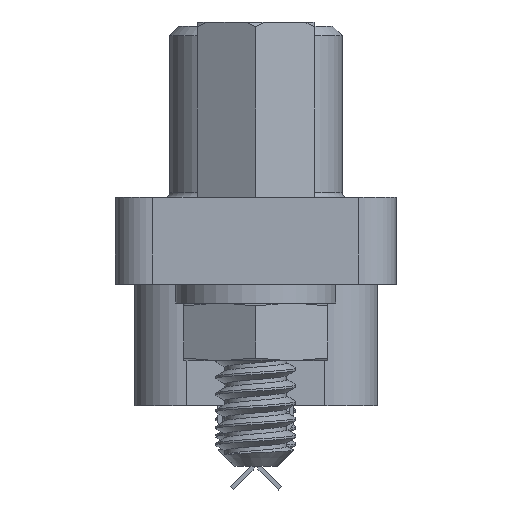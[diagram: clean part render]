
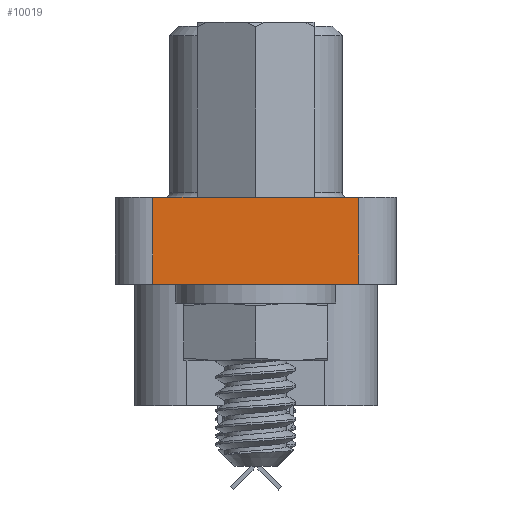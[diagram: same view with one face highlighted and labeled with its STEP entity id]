
A CAD part, left-side view. The second image highlights one B-rep face of the part: STEP entity #10019.
In plain terms, the highlighted planar face has unit normal (-1, 0, 0).
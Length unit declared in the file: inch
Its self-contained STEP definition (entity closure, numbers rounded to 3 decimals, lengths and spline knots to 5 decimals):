
#6247 = LINE ( 'NONE', #19738, #54972 ) ;
#7010 = LINE ( 'NONE', #9651, #29965 ) ;
#7025 = CARTESIAN_POINT ( 'NONE',  ( -0.9125, 0.11, 0.042 ) ) ;
#9651 = CARTESIAN_POINT ( 'NONE',  ( -0.9125, -0.11, 0.042 ) ) ;
#10019 = ADVANCED_FACE ( 'NONE', ( #28864 ), #54220, .T. ) ;
#11620 = DIRECTION ( 'NONE',  ( 0., 0., -1. ) ) ;
#12791 = CARTESIAN_POINT ( 'NONE',  ( -0.9125, 0.11, 0.042 ) ) ;
#16017 = CARTESIAN_POINT ( 'NONE',  ( -0.9125, 0.11, -0.051 ) ) ;
#17022 = ORIENTED_EDGE ( 'NONE', *, *, #22742, .T. ) ;
#18837 = CARTESIAN_POINT ( 'NONE',  ( -0.9125, -0.11, 0.042 ) ) ;
#19579 = VERTEX_POINT ( 'NONE', #12791 ) ;
#19738 = CARTESIAN_POINT ( 'NONE',  ( -0.9125, -0.11, -0.051 ) ) ;
#21075 = CARTESIAN_POINT ( 'NONE',  ( -0.9125, -0.11, -0.051 ) ) ;
#21898 = VECTOR ( 'NONE', #11620, 39.37008 ) ;
#22450 = VECTOR ( 'NONE', #40144, 39.37008 ) ;
#22742 = EDGE_CURVE ( 'NONE', #19579, #49494, #46209, .T. ) ;
#22980 = AXIS2_PLACEMENT_3D ( 'NONE', #45023, #58844, #31429 ) ;
#24355 = DIRECTION ( 'NONE',  ( 0., 1., 0. ) ) ;
#28864 = FACE_OUTER_BOUND ( 'NONE', #48682, .T. ) ;
#29119 = EDGE_CURVE ( 'NONE', #44021, #49494, #6247, .T. ) ;
#29965 = VECTOR ( 'NONE', #32476, 39.37008 ) ;
#31429 = DIRECTION ( 'NONE',  ( 0., 0., 1. ) ) ;
#32476 = DIRECTION ( 'NONE',  ( 0., 0., -1. ) ) ;
#33585 = ORIENTED_EDGE ( 'NONE', *, *, #29119, .F. ) ;
#35511 = CARTESIAN_POINT ( 'NONE',  ( -0.9125, -0.11, 0.042 ) ) ;
#35986 = EDGE_CURVE ( 'NONE', #38759, #44021, #7010, .T. ) ;
#38759 = VERTEX_POINT ( 'NONE', #18837 ) ;
#38865 = ORIENTED_EDGE ( 'NONE', *, *, #57863, .T. ) ;
#40144 = DIRECTION ( 'NONE',  ( 0., 1., 0. ) ) ;
#44021 = VERTEX_POINT ( 'NONE', #21075 ) ;
#45023 = CARTESIAN_POINT ( 'NONE',  ( -0.9125, -0.11, 0.042 ) ) ;
#46209 = LINE ( 'NONE', #7025, #21898 ) ;
#48682 = EDGE_LOOP ( 'NONE', ( #33585, #57200, #38865, #17022 ) ) ;
#49494 = VERTEX_POINT ( 'NONE', #16017 ) ;
#54220 = PLANE ( 'NONE',  #22980 ) ;
#54972 = VECTOR ( 'NONE', #24355, 39.37008 ) ;
#57200 = ORIENTED_EDGE ( 'NONE', *, *, #35986, .F. ) ;
#57863 = EDGE_CURVE ( 'NONE', #38759, #19579, #58956, .T. ) ;
#58844 = DIRECTION ( 'NONE',  ( -1., 0., 0. ) ) ;
#58956 = LINE ( 'NONE', #35511, #22450 ) ;
